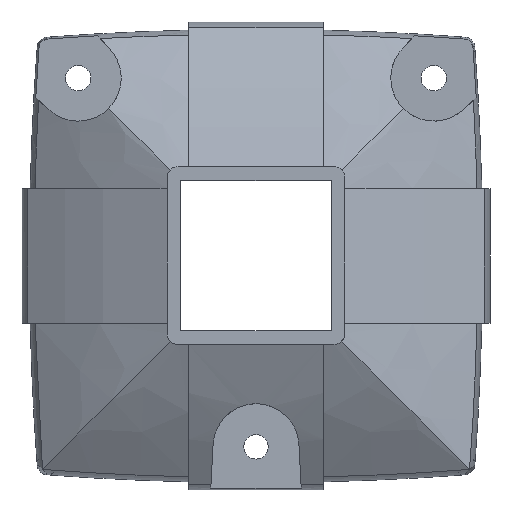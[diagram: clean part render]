
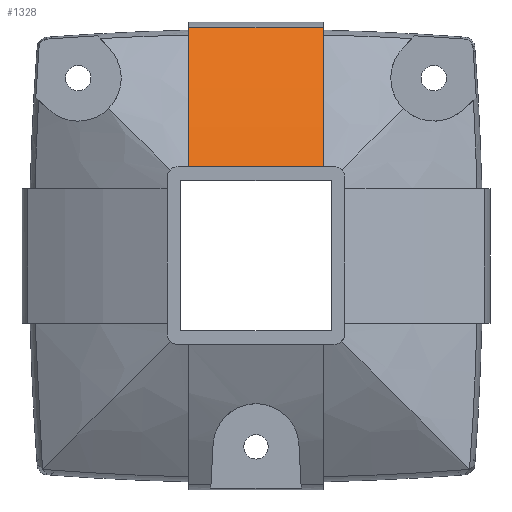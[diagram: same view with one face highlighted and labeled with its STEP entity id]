
A CAD part, top view. The second image highlights one B-rep face of the part: STEP entity #1328.
In plain terms, the highlighted cylindrical face has radius 403.5 mm (diameter 807 mm), a partial arc.
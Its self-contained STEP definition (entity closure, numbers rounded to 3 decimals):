
#53 = DIRECTION ( 'NONE',  ( 0., 0., -1. ) ) ;
#90 = ORIENTED_EDGE ( 'NONE', *, *, #1454, .T. ) ;
#184 = LINE ( 'NONE', #1966, #1525 ) ;
#272 = CARTESIAN_POINT ( 'NONE',  ( 36., 110.185, 26.754 ) ) ;
#370 = CARTESIAN_POINT ( 'NONE',  ( 36., 121.866, 18.969 ) ) ;
#629 = CARTESIAN_POINT ( 'NONE',  ( 36., 98.13, 33.91 ) ) ;
#706 = DIRECTION ( 'NONE',  ( 1., 0., 0. ) ) ;
#748 = B_SPLINE_CURVE_WITH_KNOTS ( 'NONE', 3,
 ( #2999, #5178, #4793, #1188, #1223, #5211 ),
 .UNSPECIFIED., .F., .F.,
 ( 4, 2, 4 ),
 ( 0., 0.5, 1. ),
 .UNSPECIFIED. ) ;
#755 = CARTESIAN_POINT ( 'NONE',  ( 36., 47.5, 58.022 ) ) ;
#917 = B_SPLINE_CURVE_WITH_KNOTS ( 'NONE', 3,
 ( #2500, #272, #629, #2927, #2867, #4689 ),
 .UNSPECIFIED., .F., .F.,
 ( 4, 2, 4 ),
 ( 0., 0.5, 1. ),
 .UNSPECIFIED. ) ;
#921 = VERTEX_POINT ( 'NONE', #370 ) ;
#1085 = EDGE_CURVE ( 'NONE', #921, #3723, #917, .T. ) ;
#1188 = CARTESIAN_POINT ( 'NONE',  ( -36., 73.285, 46.957 ) ) ;
#1223 = CARTESIAN_POINT ( 'NONE',  ( -36., 60.528, 52.83 ) ) ;
#1328 = ADVANCED_FACE ( 'NONE', ( #4930 ), #2229, .T. ) ;
#1454 = EDGE_CURVE ( 'NONE', #4593, #3723, #184, .T. ) ;
#1525 = VECTOR ( 'NONE', #706, 1000. ) ;
#1542 = DIRECTION ( 'NONE',  ( 1., 0., 0. ) ) ;
#1966 = CARTESIAN_POINT ( 'NONE',  ( 0., 47.5, 58.022 ) ) ;
#2122 = EDGE_CURVE ( 'NONE', #3996, #921, #2869, .T. ) ;
#2229 = CYLINDRICAL_SURFACE ( 'NONE', #4482, 403.5 ) ;
#2291 = DIRECTION ( 'NONE',  ( 1., 0., 0. ) ) ;
#2347 = CARTESIAN_POINT ( 'NONE',  ( 0., -101.9, -316.8 ) ) ;
#2450 = ORIENTED_EDGE ( 'NONE', *, *, #2122, .F. ) ;
#2500 = CARTESIAN_POINT ( 'NONE',  ( 36., 121.866, 18.969 ) ) ;
#2699 = CARTESIAN_POINT ( 'NONE',  ( -36., 121.866, 18.969 ) ) ;
#2867 = CARTESIAN_POINT ( 'NONE',  ( 36., 60.54, 52.825 ) ) ;
#2869 = LINE ( 'NONE', #3303, #3557 ) ;
#2927 = CARTESIAN_POINT ( 'NONE',  ( 36., 73.274, 46.963 ) ) ;
#2951 = EDGE_CURVE ( 'NONE', #3996, #4593, #748, .T. ) ;
#2999 = CARTESIAN_POINT ( 'NONE',  ( -36., 121.866, 18.969 ) ) ;
#3303 = CARTESIAN_POINT ( 'NONE',  ( 0., 121.866, 18.969 ) ) ;
#3557 = VECTOR ( 'NONE', #1542, 1000. ) ;
#3723 = VERTEX_POINT ( 'NONE', #755 ) ;
#3996 = VERTEX_POINT ( 'NONE', #2699 ) ;
#4482 = AXIS2_PLACEMENT_3D ( 'NONE', #2347, #2291, #53 ) ;
#4495 = ORIENTED_EDGE ( 'NONE', *, *, #2951, .T. ) ;
#4593 = VERTEX_POINT ( 'NONE', #4665 ) ;
#4665 = CARTESIAN_POINT ( 'NONE',  ( -36., 47.5, 58.022 ) ) ;
#4689 = CARTESIAN_POINT ( 'NONE',  ( 36., 47.5, 58.022 ) ) ;
#4724 = EDGE_LOOP ( 'NONE', ( #2450, #4495, #90, #5564 ) ) ;
#4793 = CARTESIAN_POINT ( 'NONE',  ( -36., 98.119, 33.916 ) ) ;
#4930 = FACE_OUTER_BOUND ( 'NONE', #4724, .T. ) ;
#5178 = CARTESIAN_POINT ( 'NONE',  ( -36., 110.195, 26.747 ) ) ;
#5211 = CARTESIAN_POINT ( 'NONE',  ( -36., 47.5, 58.022 ) ) ;
#5564 = ORIENTED_EDGE ( 'NONE', *, *, #1085, .F. ) ;
